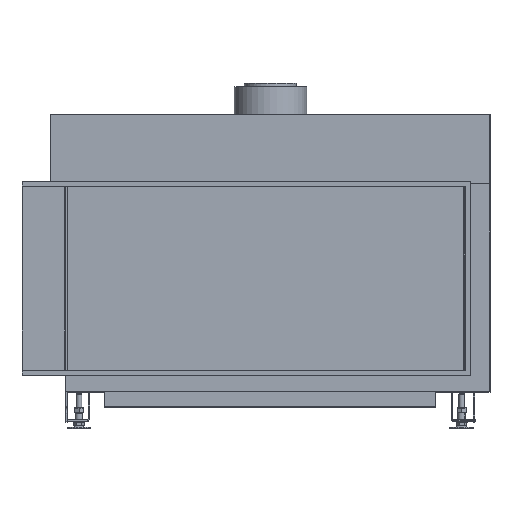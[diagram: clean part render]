
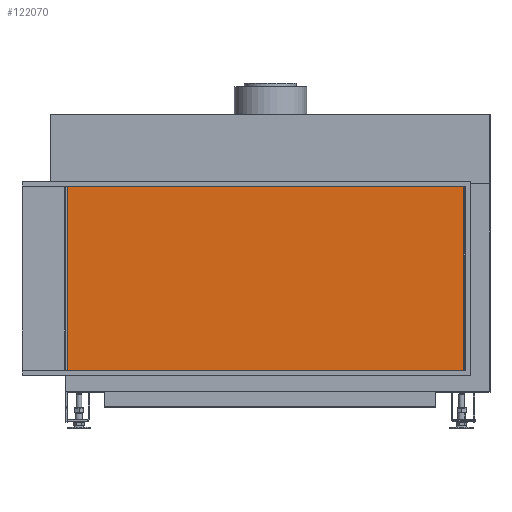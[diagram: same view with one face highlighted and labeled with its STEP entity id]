
A CAD part, top view. The second image highlights one B-rep face of the part: STEP entity #122070.
In plain terms, the highlighted planar face has unit normal (0, 0, 1).
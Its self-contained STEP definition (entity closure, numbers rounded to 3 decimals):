
#121680=CARTESIAN_POINT('',(1738.,5.75,442.196));
#121690=DIRECTION('',(0.,0.,1.));
#121700=DIRECTION('',(1.,0.,0.));
#121710=AXIS2_PLACEMENT_3D('',#121680,#121690,#121700);
#121720=PLANE('',#121710);
#121730=CARTESIAN_POINT('',(1738.,-10.4,442.196));
#121740=DIRECTION('',(1.,0.,0.));
#121750=VECTOR('',#121740,1.);
#121760=LINE('',#121730,#121750);
#121770=CARTESIAN_POINT('',(1055.884,-10.4,
442.196));
#121780=VERTEX_POINT('',#121770);
#121790=CARTESIAN_POINT('',(1890.884,-10.4,
442.196));
#121800=VERTEX_POINT('',#121790);
#121810=EDGE_CURVE('',#121780,#121800,#121760,.T.);
#121820=ORIENTED_EDGE('',*,*,#121810,.T.);
#121830=CARTESIAN_POINT('',(1055.884,188.1,442.196));
#121840=DIRECTION('',(0.,-1.,0.));
#121850=VECTOR('',#121840,1.);
#121860=LINE('',#121830,#121850);
#121870=CARTESIAN_POINT('',(1055.884,386.6,442.196));
#121880=VERTEX_POINT('',#121870);
#121890=EDGE_CURVE('',#121880,#121780,#121860,.T.);
#121900=ORIENTED_EDGE('',*,*,#121890,.T.);
#121910=CARTESIAN_POINT('',(1738.,386.6,442.196));
#121920=DIRECTION('',(-1.,0.,0.));
#121930=VECTOR('',#121920,1.);
#121940=LINE('',#121910,#121930);
#121950=CARTESIAN_POINT('',(1890.884,386.6,442.196));
#121960=VERTEX_POINT('',#121950);
#121970=EDGE_CURVE('',#121960,#121880,#121940,.T.);
#121980=ORIENTED_EDGE('',*,*,#121970,.T.);
#121990=CARTESIAN_POINT('',(1890.884,188.1,442.196));
#122000=DIRECTION('',(0.,-1.,0.));
#122010=VECTOR('',#122000,1.);
#122020=LINE('',#121990,#122010);
#122030=EDGE_CURVE('',#121960,#121800,#122020,.T.);
#122040=ORIENTED_EDGE('',*,*,#122030,.F.);
#122050=EDGE_LOOP('',(#122040,#121980,#121900,#121820));
#122060=FACE_OUTER_BOUND('',#122050,.T.);
#122070=ADVANCED_FACE('',(#122060),#121720,.T.);
